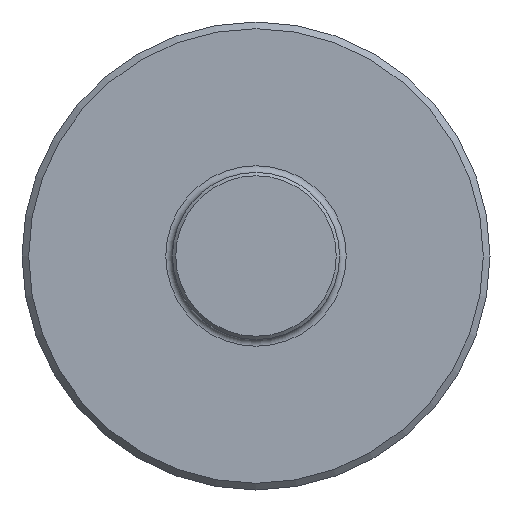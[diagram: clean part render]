
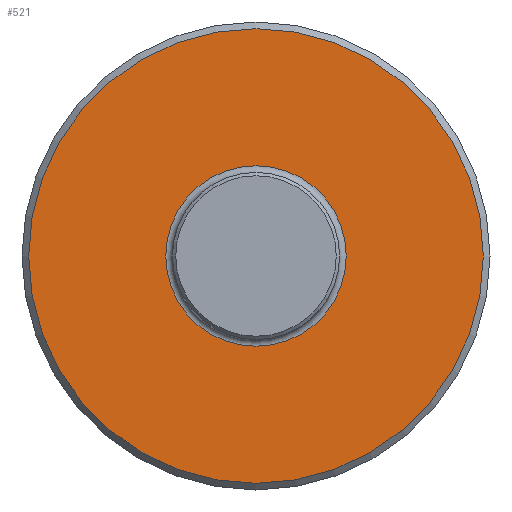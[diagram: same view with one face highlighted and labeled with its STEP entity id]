
A CAD part, left-side view. The second image highlights one B-rep face of the part: STEP entity #521.
In plain terms, the highlighted planar face has unit normal (-1, 0, 0).
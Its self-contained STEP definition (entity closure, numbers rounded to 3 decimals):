
#19=FACE_BOUND('',#87,.T.);
#27=PLANE('',#587);
#55=FACE_OUTER_BOUND('',#86,.T.);
#86=EDGE_LOOP('',(#391));
#87=EDGE_LOOP('',(#392));
#206=CIRCLE('',#585,27.);
#208=CIRCLE('',#588,68.);
#248=VERTEX_POINT('',#855);
#249=VERTEX_POINT('',#860);
#303=EDGE_CURVE('',#248,#248,#206,.T.);
#305=EDGE_CURVE('',#249,#249,#208,.T.);
#391=ORIENTED_EDGE('',*,*,#305,.F.);
#392=ORIENTED_EDGE('',*,*,#303,.F.);
#521=ADVANCED_FACE('',(#55,#19),#27,.T.);
#585=AXIS2_PLACEMENT_3D('',#857,#683,#684);
#587=AXIS2_PLACEMENT_3D('',#859,#687,#688);
#588=AXIS2_PLACEMENT_3D('',#861,#689,#690);
#683=DIRECTION('center_axis',(-1.,0.,0.));
#684=DIRECTION('ref_axis',(0.,-1.,0.));
#687=DIRECTION('center_axis',(-1.,0.,0.));
#688=DIRECTION('ref_axis',(0.,0.,1.));
#689=DIRECTION('center_axis',(1.,0.,0.));
#690=DIRECTION('ref_axis',(0.,-1.,0.));
#855=CARTESIAN_POINT('',(76.,0.,27.));
#857=CARTESIAN_POINT('Origin',(76.,0.,0.));
#859=CARTESIAN_POINT('Origin',(76.,70.,0.));
#860=CARTESIAN_POINT('',(76.,68.,0.));
#861=CARTESIAN_POINT('Origin',(76.,0.,0.));
